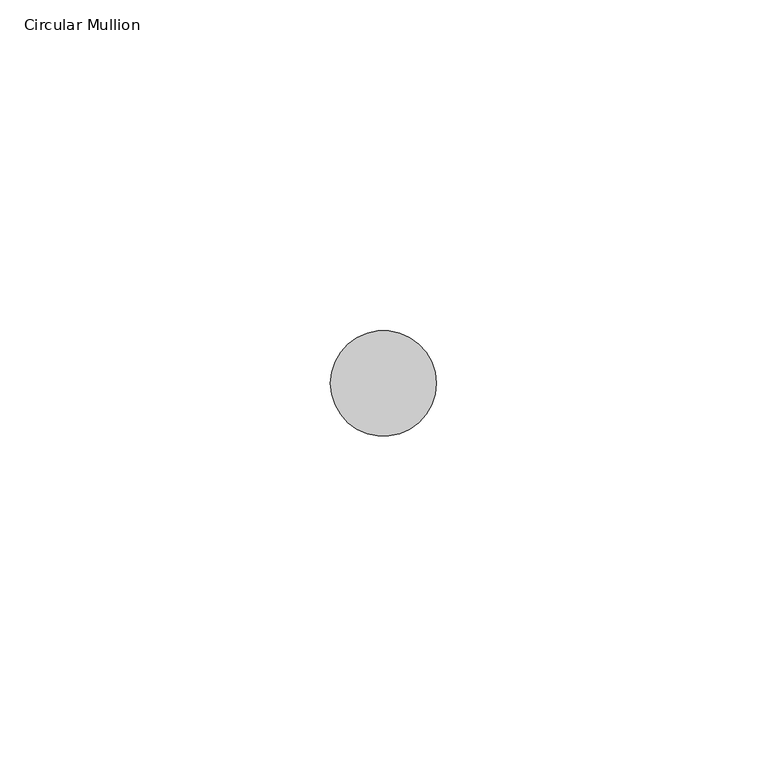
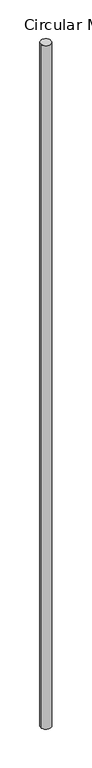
"""IFC4 building model written with IfcOpenShell, lengths in millimetres: member geometry, Circular Mullion : ARQ_HERR_16mm."""

from ifc_helpers import new_model, si_unit, point, frame, origin, origin_2d, place, context, project, spatial, circle_curve, trimmed, segment, composite_curve, outline, extrude, source, transform, mapped, element, save


def circular_mullion_1dead5a5(model_context):
    return source(origin(), model_context, "Body", "SweptSolid", [
        extrude(outline(composite_curve([segment(trimmed(circle_curve(origin_2d(), 8.0), [point((8.0, 0.0))], [point((-8.0, 0.0))], False, "CARTESIAN"), True, "CONTINUOUS"), segment(trimmed(circle_curve(origin_2d(), 8.0), [point((-8.0, 0.0))], [point((8.0, 0.0))], False, "CARTESIAN"), True, "CONTINUOUS")], self_intersect=False)), frame((0.0, 0.0, -1110.8347839), z_axis=(0.0, 0.0, 1.0), x_axis=(1.0, 0.0, 0.0)), (0.0, 0.0, 1.0), 1110.8347839),
    ])


if __name__ == "__main__":
    model = new_model("IFC4")
    model_context = context("Model", 3, world=origin())
    ifc_project = project(units=[si_unit("LENGTHUNIT", "METRE", prefix="MILLI")], contexts=[model_context])
    site = spatial("IfcSite", under=ifc_project)
    building = spatial("IfcBuilding", under=site)
    placement = place(None, origin())
    circular_mullion_shape = circular_mullion_1dead5a5(model_context)
    element("IfcMember", 1, ObjectType="Circular Mullion : ARQ_HERR_16mm", at=placement, inside=building, context=model_context, shape_type="MappedRepresentation", body=[
        mapped(circular_mullion_shape, transform((0.0, 0.0, 0.0), x_axis=(1.0, 0.0, 0.0), y_axis=(0.0, 1.0, 0.0), z_axis=(0.0, 0.0, 1.0))),
    ])
    save(model, "model.ifc")
